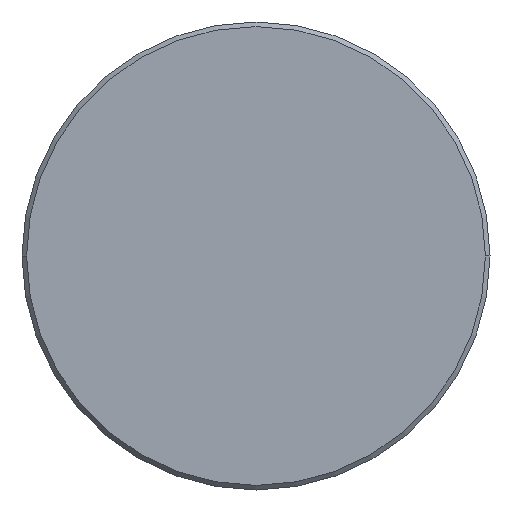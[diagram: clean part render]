
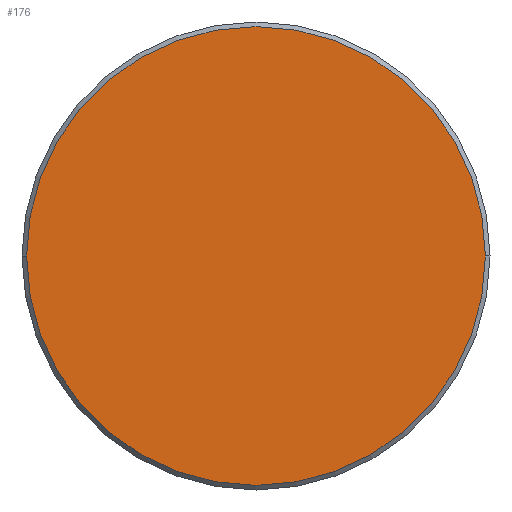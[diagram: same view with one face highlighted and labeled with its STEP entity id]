
A CAD part, left-side view. The second image highlights one B-rep face of the part: STEP entity #176.
In plain terms, the highlighted planar face has unit normal (-1, 0, 0).
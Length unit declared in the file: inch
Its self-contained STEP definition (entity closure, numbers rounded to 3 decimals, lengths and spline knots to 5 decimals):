
#11 = DIRECTION ( 'NONE',  ( -1., 0., 0. ) ) ;
#38 = EDGE_CURVE ( 'NONE', #254, #239, #268, .T. ) ;
#43 = CARTESIAN_POINT ( 'NONE',  ( 0., 0., 0. ) ) ;
#76 = CARTESIAN_POINT ( 'NONE',  ( 0., 0., 0. ) ) ;
#85 = AXIS2_PLACEMENT_3D ( 'NONE', #43, #11, #128 ) ;
#89 = AXIS2_PLACEMENT_3D ( 'NONE', #76, #230, #200 ) ;
#93 = EDGE_LOOP ( 'NONE', ( #155, #171 ) ) ;
#107 = EDGE_CURVE ( 'NONE', #239, #254, #367, .T. ) ;
#128 = DIRECTION ( 'NONE',  ( 0., -1., 0. ) ) ;
#133 = PLANE ( 'NONE',  #89 ) ;
#136 = CARTESIAN_POINT ( 'NONE',  ( 0., -0.19912, 0. ) ) ;
#155 = ORIENTED_EDGE ( 'NONE', *, *, #38, .T. ) ;
#171 = ORIENTED_EDGE ( 'NONE', *, *, #107, .T. ) ;
#176 = ADVANCED_FACE ( 'NONE', ( #190 ), #133, .T. ) ;
#186 = CARTESIAN_POINT ( 'NONE',  ( 0., 0., 0. ) ) ;
#190 = FACE_OUTER_BOUND ( 'NONE', #93, .T. ) ;
#200 = DIRECTION ( 'NONE',  ( 0., -1., 0. ) ) ;
#230 = DIRECTION ( 'NONE',  ( -1., 0., 0. ) ) ;
#239 = VERTEX_POINT ( 'NONE', #136 ) ;
#254 = VERTEX_POINT ( 'NONE', #370 ) ;
#268 = CIRCLE ( 'NONE', #85, 0.19912 ) ;
#309 = AXIS2_PLACEMENT_3D ( 'NONE', #186, #310, #334 ) ;
#310 = DIRECTION ( 'NONE',  ( -1., 0., 0. ) ) ;
#334 = DIRECTION ( 'NONE',  ( 0., -1., 0. ) ) ;
#367 = CIRCLE ( 'NONE', #309, 0.19912 ) ;
#370 = CARTESIAN_POINT ( 'NONE',  ( 0., 0.19912, 0. ) ) ;
